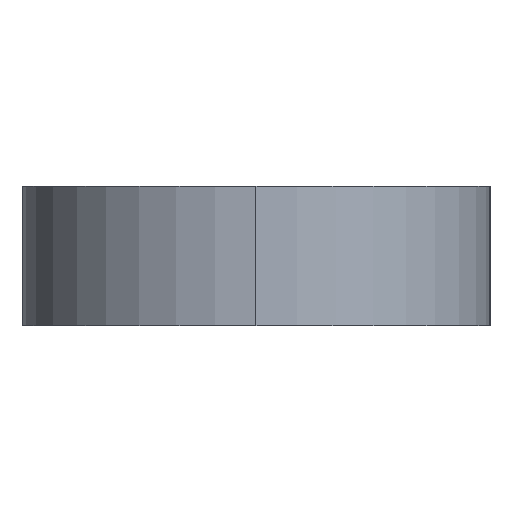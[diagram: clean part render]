
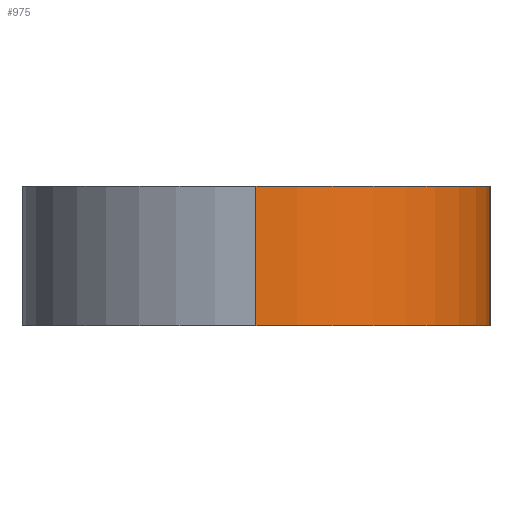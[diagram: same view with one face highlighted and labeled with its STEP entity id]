
A CAD part, left-side view. The second image highlights one B-rep face of the part: STEP entity #975.
In plain terms, the highlighted cylindrical face has radius 5.335 mm (diameter 10.67 mm), a partial arc.
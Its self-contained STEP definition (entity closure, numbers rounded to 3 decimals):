
#9 = ORIENTED_EDGE ( 'NONE', *, *, #699, .T. ) ;
#53 = DIRECTION ( 'NONE',  ( 0., 0., -1. ) ) ;
#81 = AXIS2_PLACEMENT_3D ( 'NONE', #547, #53, #868 ) ;
#103 = CIRCLE ( 'NONE', #548, 5.335 ) ;
#113 = ORIENTED_EDGE ( 'NONE', *, *, #814, .F. ) ;
#142 = CARTESIAN_POINT ( 'NONE',  ( -43.025, -5.335, 3.175 ) ) ;
#143 = CARTESIAN_POINT ( 'NONE',  ( -48.36, 0., 0. ) ) ;
#163 = CARTESIAN_POINT ( 'NONE',  ( -48.36, 0., 3.175 ) ) ;
#180 = CARTESIAN_POINT ( 'NONE',  ( -43.025, 0., 3.175 ) ) ;
#214 = ORIENTED_EDGE ( 'NONE', *, *, #734, .F. ) ;
#239 = CARTESIAN_POINT ( 'NONE',  ( -48.36, 0., 3.175 ) ) ;
#249 = ORIENTED_EDGE ( 'NONE', *, *, #827, .T. ) ;
#260 = CIRCLE ( 'NONE', #685, 5.335 ) ;
#285 = EDGE_LOOP ( 'NONE', ( #113, #9, #249, #214 ) ) ;
#286 = LINE ( 'NONE', #1006, #345 ) ;
#313 = VECTOR ( 'NONE', #813, 1000. ) ;
#345 = VECTOR ( 'NONE', #746, 1000. ) ;
#365 = DIRECTION ( 'NONE',  ( 1., 0., 0. ) ) ;
#446 = DIRECTION ( 'NONE',  ( 0., 0., 1. ) ) ;
#518 = DIRECTION ( 'NONE',  ( 0., 0., 1. ) ) ;
#528 = DIRECTION ( 'NONE',  ( 1., 0., 0. ) ) ;
#542 = CYLINDRICAL_SURFACE ( 'NONE', #81, 5.335 ) ;
#547 = CARTESIAN_POINT ( 'NONE',  ( -43.025, 0., 3.175 ) ) ;
#548 = AXIS2_PLACEMENT_3D ( 'NONE', #180, #446, #365 ) ;
#569 = VERTEX_POINT ( 'NONE', #143 ) ;
#644 = LINE ( 'NONE', #163, #313 ) ;
#679 = VERTEX_POINT ( 'NONE', #239 ) ;
#685 = AXIS2_PLACEMENT_3D ( 'NONE', #851, #518, #528 ) ;
#699 = EDGE_CURVE ( 'NONE', #679, #569, #644, .T. ) ;
#734 = EDGE_CURVE ( 'NONE', #992, #873, #286, .T. ) ;
#746 = DIRECTION ( 'NONE',  ( 0., 0., -1. ) ) ;
#813 = DIRECTION ( 'NONE',  ( 0., 0., -1. ) ) ;
#814 = EDGE_CURVE ( 'NONE', #679, #992, #103, .T. ) ;
#827 = EDGE_CURVE ( 'NONE', #569, #873, #260, .T. ) ;
#851 = CARTESIAN_POINT ( 'NONE',  ( -43.025, 0., 0. ) ) ;
#868 = DIRECTION ( 'NONE',  ( -1., 0., 0. ) ) ;
#873 = VERTEX_POINT ( 'NONE', #874 ) ;
#874 = CARTESIAN_POINT ( 'NONE',  ( -43.025, -5.335, 0. ) ) ;
#975 = ADVANCED_FACE ( 'NONE', ( #1031 ), #542, .T. ) ;
#992 = VERTEX_POINT ( 'NONE', #142 ) ;
#1006 = CARTESIAN_POINT ( 'NONE',  ( -43.025, -5.335, 3.175 ) ) ;
#1031 = FACE_OUTER_BOUND ( 'NONE', #285, .T. ) ;
